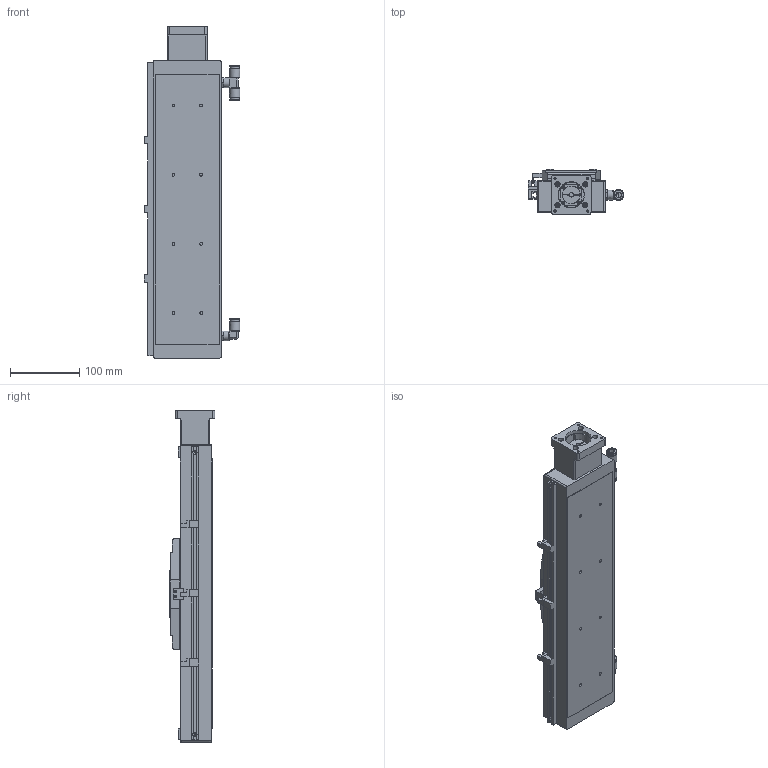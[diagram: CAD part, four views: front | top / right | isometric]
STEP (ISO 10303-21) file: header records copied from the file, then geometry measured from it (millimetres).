
FILE_DESCRIPTION((''),'2;1');
FILE_NAME('E:\libraries\UIA actuator library 2016\Clean room actuator\UIA098CR12DC\UIA098CR12 stp file 05May16\UIA098CR12DC-200-R16_ _-M23-P13-C10-S.stp','2016-05-05T14:58:03',('h029'),(''),'Autodesk Inventor 11','Autodesk Inventor 11','');
FILE_SCHEMA(('AUTOMOTIVE_DESIGN { 1 0 10303 214 1 1 1 1 }'));
Length unit declared in the file: millimetre
Products named in the file (12): UIA098CR12DC-200; body, UIA098CR12DC-200; carriage, UIA098CR12DC; Sensor Switch, UIA098CR12DC; Motor mount; Sensor Rail, UIA098CR12DC-200_MIR; vacuum port 1, UIA098CR12DC_MIR; vacuum port 2, UIA098CR12DC_MIR; SOH-25C; SOH-25C-2; SOH-25C-3; SOH-25C-1
Assembly tree (11 placements, depth 3):
  UIA098CR12DC-200
    body, UIA098CR12DC-200
    carriage, UIA098CR12DC
    Sensor Switch, UIA098CR12DC
    Motor mount
    Sensor Rail, UIA098CR12DC-200_MIR
    vacuum port 1, UIA098CR12DC_MIR
    vacuum port 2, UIA098CR12DC_MIR
    SOH-25C
      SOH-25C-2
      SOH-25C-3
      SOH-25C-1
Bounding box: 138.4 x 65.5 x 480 mm (x, y, z)
Volume: 2157057.7 mm3; surface area: 242892.5 mm2
Topology: 10 solids, 10 shells, 660 faces, 1725 edges, 1124 vertices
Faces by surface type: plane 295, bspline 276, cylinder 86, cone 3
Full cylindrical faces by diameter (mm): 3 x3, 5.6 x8, 8 x4, 9 x2, 10 x1, 13 x1, 15 x2, 18 x1, 25.5 x3, 37 x1, 38.1 x1
Entity records: 21447 total; most frequent: CARTESIAN_POINT 6260, ORIENTED_EDGE 3088, DIRECTION 2713, EDGE_CURVE 1544, VECTOR 1123, LINE 1123, VERTEX_POINT 1066, EDGE_LOOP 906
